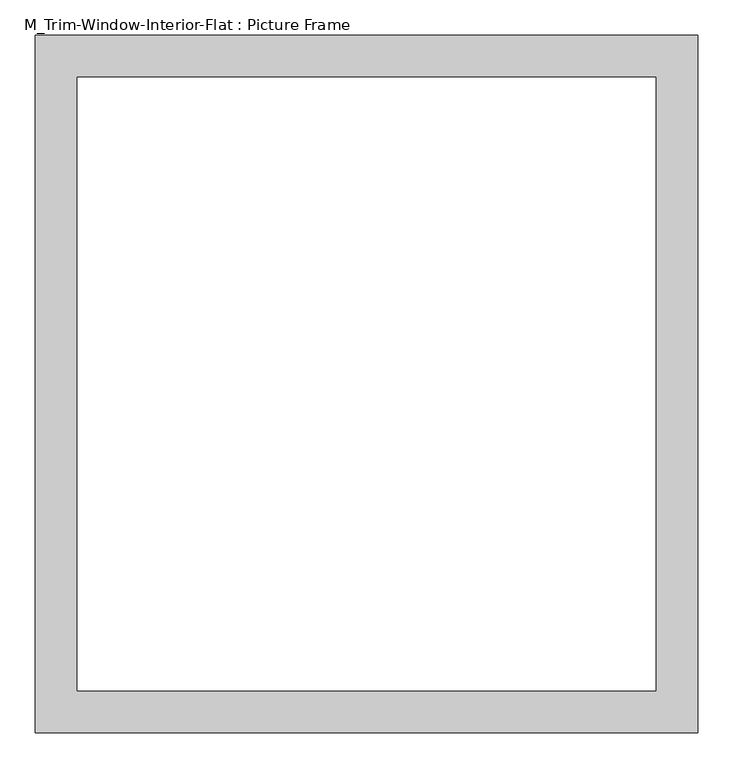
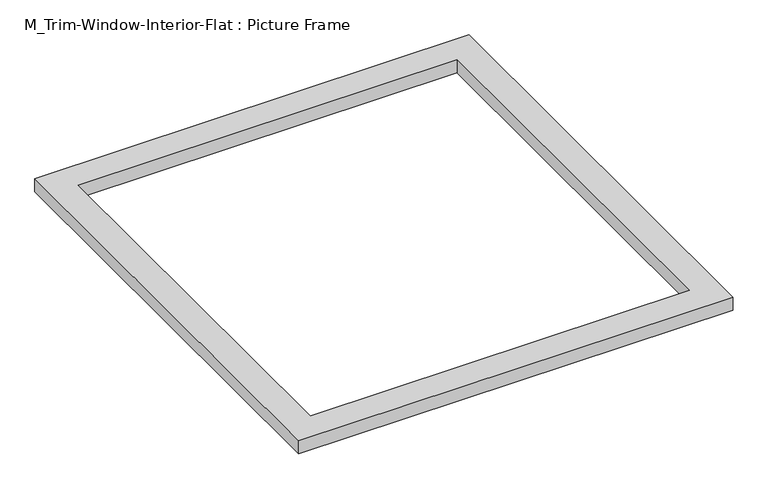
"""IFC4 building model written with IfcOpenShell, lengths in millimetres: proxy geometry, M_Trim-Window-Interior-Flat : Picture Frame."""

from ifc_helpers import new_model, si_unit, origin, origin_with_axes, place, context, project, spatial, polyline, outline, extrude, source, transform, mapped, element, save


def m_trim_window_interior_flat_picture_frame_6ca9b1f8(model_context):
    return source(origin(), model_context, "Body", "SweptSolid", [
        extrude(outline(polyline([(472.3, 47.3), (472.3, -947.3), (-472.3, -947.3), (-472.3, 47.3), (472.3, 47.3)]), holes=[polyline([(412.3, -12.7), (-412.3, -12.7), (-412.3, -887.3), (412.3, -887.3), (412.3, -12.7)])]), origin_with_axes(), (0.0, 0.0, 1.0), 30.0),
    ])


if __name__ == "__main__":
    model = new_model("IFC4")
    model_context = context("Model", 3, world=origin())
    ifc_project = project(units=[si_unit("LENGTHUNIT", "METRE", prefix="MILLI")], contexts=[model_context])
    site = spatial("IfcSite", under=ifc_project)
    building = spatial("IfcBuilding", under=site)
    placement = place(None, origin())
    m_trim_window_interior_flat_picture_frame_shape = m_trim_window_interior_flat_picture_frame_6ca9b1f8(model_context)
    element("IfcBuildingElementProxy", 1, Name="M_Trim-Window-Interior-Flat : Picture Frame", ObjectType="M_Trim-Window-Interior-Flat : Picture Frame", at=placement, inside=building, context=model_context, shape_type="MappedRepresentation", body=[
        mapped(m_trim_window_interior_flat_picture_frame_shape, transform((0.0, 0.0, 0.0), x_axis=(1.0, 0.0, 0.0), y_axis=(0.0, 1.0, 0.0), z_axis=(0.0, 0.0, 1.0))),
    ])
    save(model, "model.ifc")
